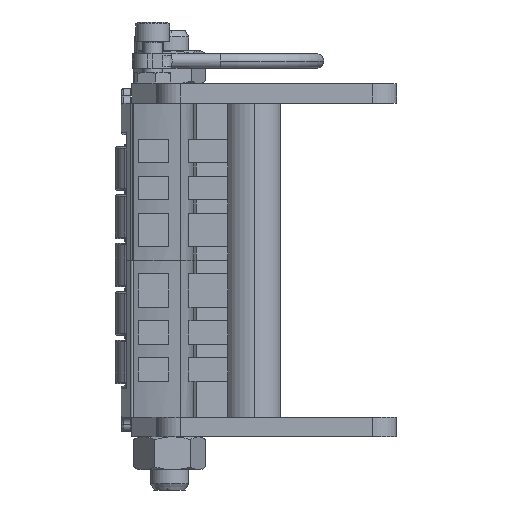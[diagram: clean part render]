
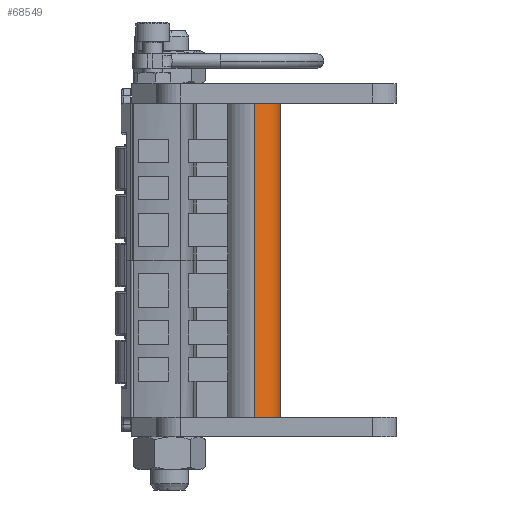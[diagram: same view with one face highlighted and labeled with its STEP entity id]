
A CAD part, left-side view. The second image highlights one B-rep face of the part: STEP entity #68549.
In plain terms, the highlighted cylindrical face has radius 6 mm (diameter 12 mm), a partial arc.
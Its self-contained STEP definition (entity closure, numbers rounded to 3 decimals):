
#3069 = CARTESIAN_POINT ( 'NONE',  ( 234.969, -19.188, -4. ) ) ;
#5634 = DIRECTION ( 'NONE',  ( -0.995, -0.102, 0. ) ) ;
#5669 = EDGE_CURVE ( 'NONE', #51174, #31758, #15464, .T. ) ;
#5797 = ORIENTED_EDGE ( 'NONE', *, *, #12671, .T. ) ;
#11371 = ORIENTED_EDGE ( 'NONE', *, *, #17077, .T. ) ;
#12503 = ORIENTED_EDGE ( 'NONE', *, *, #5669, .T. ) ;
#12671 = EDGE_CURVE ( 'NONE', #31758, #25525, #67705, .T. ) ;
#13456 = VECTOR ( 'NONE', #27307, 1000. ) ;
#15464 = LINE ( 'NONE', #57783, #13456 ) ;
#17077 = EDGE_CURVE ( 'NONE', #51866, #51174, #78609, .T. ) ;
#24081 = DIRECTION ( 'NONE',  ( 0., 0., 1. ) ) ;
#24921 = AXIS2_PLACEMENT_3D ( 'NONE', #25596, #32206, #81737 ) ;
#25525 = VERTEX_POINT ( 'NONE', #33555 ) ;
#25596 = CARTESIAN_POINT ( 'NONE',  ( 229., -19.8, -69. ) ) ;
#26320 = VECTOR ( 'NONE', #24081, 1000. ) ;
#27307 = DIRECTION ( 'NONE',  ( 0., 0., 1. ) ) ;
#31758 = VERTEX_POINT ( 'NONE', #3069 ) ;
#32206 = DIRECTION ( 'NONE',  ( 0., 0., 1. ) ) ;
#33555 = CARTESIAN_POINT ( 'NONE',  ( 223.031, -20.412, -4. ) ) ;
#37196 = DIRECTION ( 'NONE',  ( -0.995, -0.102, 0. ) ) ;
#39722 = EDGE_LOOP ( 'NONE', ( #11371, #12503, #5797, #70347 ) ) ;
#42007 = AXIS2_PLACEMENT_3D ( 'NONE', #50497, #43816, #37196 ) ;
#43816 = DIRECTION ( 'NONE',  ( 0., 0., 1. ) ) ;
#44424 = CYLINDRICAL_SURFACE ( 'NONE', #24921, 6. ) ;
#50433 = FACE_OUTER_BOUND ( 'NONE', #39722, .T. ) ;
#50497 = CARTESIAN_POINT ( 'NONE',  ( 229., -19.8, -69. ) ) ;
#51174 = VERTEX_POINT ( 'NONE', #79379 ) ;
#51866 = VERTEX_POINT ( 'NONE', #54885 ) ;
#54885 = CARTESIAN_POINT ( 'NONE',  ( 223.031, -20.412, -69. ) ) ;
#55374 = CARTESIAN_POINT ( 'NONE',  ( 223.031, -20.412, -69. ) ) ;
#57783 = CARTESIAN_POINT ( 'NONE',  ( 234.969, -19.188, -69. ) ) ;
#66691 = EDGE_CURVE ( 'NONE', #51866, #25525, #70683, .T. ) ;
#66916 = AXIS2_PLACEMENT_3D ( 'NONE', #68309, #69112, #5634 ) ;
#67705 = CIRCLE ( 'NONE', #66916, 6. ) ;
#68309 = CARTESIAN_POINT ( 'NONE',  ( 229., -19.8, -4. ) ) ;
#68549 = ADVANCED_FACE ( 'NONE', ( #50433 ), #44424, .T. ) ;
#69112 = DIRECTION ( 'NONE',  ( 0., 0., -1. ) ) ;
#70347 = ORIENTED_EDGE ( 'NONE', *, *, #66691, .F. ) ;
#70683 = LINE ( 'NONE', #55374, #26320 ) ;
#78609 = CIRCLE ( 'NONE', #42007, 6. ) ;
#79379 = CARTESIAN_POINT ( 'NONE',  ( 234.969, -19.188, -69. ) ) ;
#81737 = DIRECTION ( 'NONE',  ( -0.995, -0.102, 0. ) ) ;
